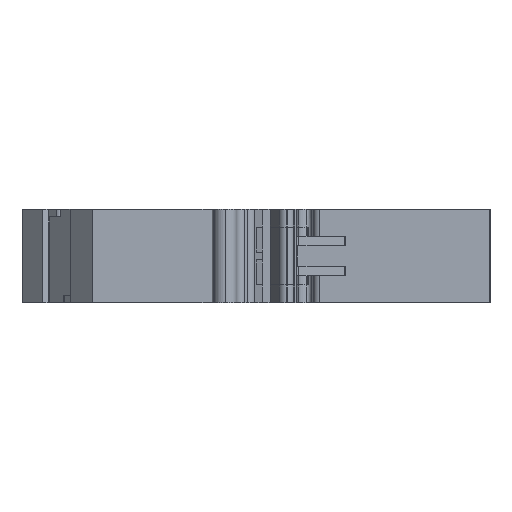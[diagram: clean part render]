
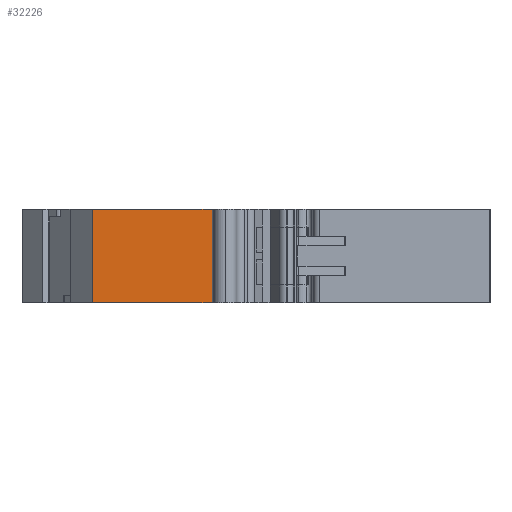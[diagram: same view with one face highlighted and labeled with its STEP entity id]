
A CAD part, left-side view. The second image highlights one B-rep face of the part: STEP entity #32226.
In plain terms, the highlighted planar face has unit normal (-1, 0, 0).
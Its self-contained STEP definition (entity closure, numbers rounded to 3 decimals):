
#32226 = ADVANCED_FACE('',(#32227),#32241,.T.);
#32227 = FACE_BOUND('',#32228,.T.);
#32228 = EDGE_LOOP('',(#32229,#32252,#32268,#32284));
#32229 = ORIENTED_EDGE('',*,*,#32230,.T.);
#32230 = EDGE_CURVE('',#32231,#32233,#32235,.T.);
#32231 = VERTEX_POINT('',#32232);
#32232 = CARTESIAN_POINT('',(-26.,42.873,12.));
#32233 = VERTEX_POINT('',#32234);
#32234 = CARTESIAN_POINT('',(-26.,42.873,0.));
#32235 = SURFACE_CURVE('',#32236,(#32240),.PCURVE_S1.);
#32236 = LINE('',#32237,#32238);
#32237 = CARTESIAN_POINT('',(-26.,42.873,0.));
#32238 = VECTOR('',#32239,1.);
#32239 = DIRECTION('',(0.,0.,-1.));
#32240 = PCURVE('',#32241,#32246);
#32241 = PLANE('',#32242);
#32242 = AXIS2_PLACEMENT_3D('',#32243,#32244,#32245);
#32243 = CARTESIAN_POINT('',(-26.,43.073,0.));
#32244 = DIRECTION('',(-1.,0.,0.));
#32245 = DIRECTION('',(0.,0.,1.));
#32246 = DEFINITIONAL_REPRESENTATION('',(#32247),#32251);
#32247 = LINE('',#32248,#32249);
#32248 = CARTESIAN_POINT('',(0.,-0.2));
#32249 = VECTOR('',#32250,1.);
#32250 = DIRECTION('',(-1.,0.));
#32251 = ( GEOMETRIC_REPRESENTATION_CONTEXT(2) 
PARAMETRIC_REPRESENTATION_CONTEXT() REPRESENTATION_CONTEXT('2D SPACE',''
  ) );
#32252 = ORIENTED_EDGE('',*,*,#32253,.T.);
#32253 = EDGE_CURVE('',#32233,#32254,#32256,.T.);
#32254 = VERTEX_POINT('',#32255);
#32255 = CARTESIAN_POINT('',(-26.,27.579,0.));
#32256 = SURFACE_CURVE('',#32257,(#32261),.PCURVE_S1.);
#32257 = LINE('',#32258,#32259);
#32258 = CARTESIAN_POINT('',(-26.,43.073,0.));
#32259 = VECTOR('',#32260,1.);
#32260 = DIRECTION('',(0.,-1.,0.));
#32261 = PCURVE('',#32241,#32262);
#32262 = DEFINITIONAL_REPRESENTATION('',(#32263),#32267);
#32263 = LINE('',#32264,#32265);
#32264 = CARTESIAN_POINT('',(0.,0.));
#32265 = VECTOR('',#32266,1.);
#32266 = DIRECTION('',(0.,-1.));
#32267 = ( GEOMETRIC_REPRESENTATION_CONTEXT(2) 
PARAMETRIC_REPRESENTATION_CONTEXT() REPRESENTATION_CONTEXT('2D SPACE',''
  ) );
#32268 = ORIENTED_EDGE('',*,*,#32269,.F.);
#32269 = EDGE_CURVE('',#32270,#32254,#32272,.T.);
#32270 = VERTEX_POINT('',#32271);
#32271 = CARTESIAN_POINT('',(-26.,27.579,12.));
#32272 = SURFACE_CURVE('',#32273,(#32277),.PCURVE_S1.);
#32273 = LINE('',#32274,#32275);
#32274 = CARTESIAN_POINT('',(-26.,27.579,
    25.55));
#32275 = VECTOR('',#32276,1.);
#32276 = DIRECTION('',(0.,0.,-1.));
#32277 = PCURVE('',#32241,#32278);
#32278 = DEFINITIONAL_REPRESENTATION('',(#32279),#32283);
#32279 = LINE('',#32280,#32281);
#32280 = CARTESIAN_POINT('',(25.55,-15.494));
#32281 = VECTOR('',#32282,1.);
#32282 = DIRECTION('',(-1.,0.));
#32283 = ( GEOMETRIC_REPRESENTATION_CONTEXT(2) 
PARAMETRIC_REPRESENTATION_CONTEXT() REPRESENTATION_CONTEXT('2D SPACE',''
  ) );
#32284 = ORIENTED_EDGE('',*,*,#32285,.T.);
#32285 = EDGE_CURVE('',#32270,#32231,#32286,.T.);
#32286 = SURFACE_CURVE('',#32287,(#32291),.PCURVE_S1.);
#32287 = LINE('',#32288,#32289);
#32288 = CARTESIAN_POINT('',(-26.,43.073,12.));
#32289 = VECTOR('',#32290,1.);
#32290 = DIRECTION('',(0.,1.,0.));
#32291 = PCURVE('',#32241,#32292);
#32292 = DEFINITIONAL_REPRESENTATION('',(#32293),#32297);
#32293 = LINE('',#32294,#32295);
#32294 = CARTESIAN_POINT('',(12.,0.));
#32295 = VECTOR('',#32296,1.);
#32296 = DIRECTION('',(0.,1.));
#32297 = ( GEOMETRIC_REPRESENTATION_CONTEXT(2) 
PARAMETRIC_REPRESENTATION_CONTEXT() REPRESENTATION_CONTEXT('2D SPACE',''
  ) );
